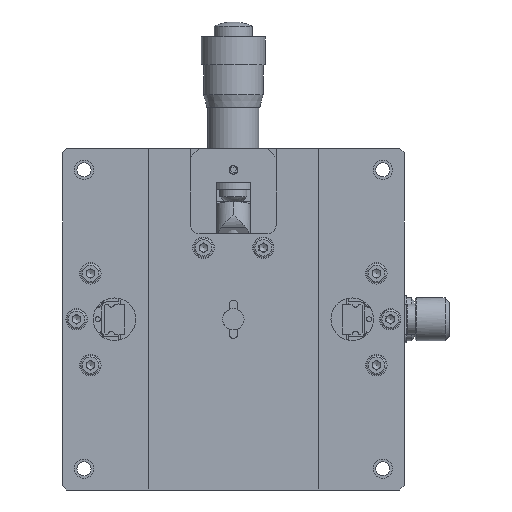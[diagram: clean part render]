
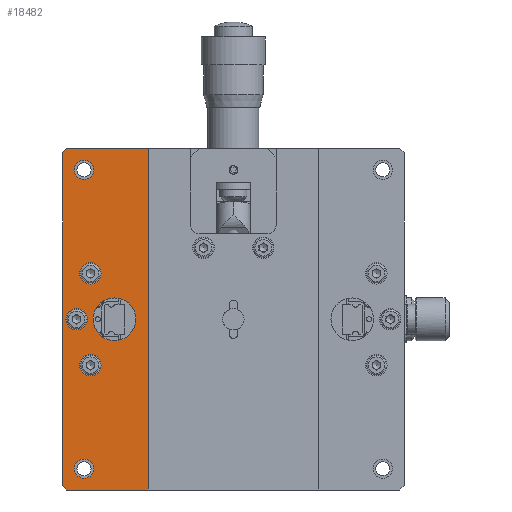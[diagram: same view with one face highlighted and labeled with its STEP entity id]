
A CAD part, front view. The second image highlights one B-rep face of the part: STEP entity #18482.
In plain terms, the highlighted planar face has unit normal (0, -1, 0).
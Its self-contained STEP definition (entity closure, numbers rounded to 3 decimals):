
#174 = VECTOR ( 'NONE', #33230, 1000. ) ;
#205 = VERTEX_POINT ( 'NONE', #29782 ) ;
#845 = CARTESIAN_POINT ( 'NONE',  ( -39., 0., 40. ) ) ;
#1415 = DIRECTION ( 'NONE',  ( -1., 0., 0. ) ) ;
#1428 = FACE_BOUND ( 'NONE', #21242, .T. ) ;
#1752 = CIRCLE ( 'NONE', #14647, 2.5 ) ;
#2154 = ORIENTED_EDGE ( 'NONE', *, *, #39983, .F. ) ;
#2797 = VECTOR ( 'NONE', #19527, 1000. ) ;
#3346 = ORIENTED_EDGE ( 'NONE', *, *, #39686, .T. ) ;
#4066 = CARTESIAN_POINT ( 'NONE',  ( -39., 0., -40. ) ) ;
#4334 = VERTEX_POINT ( 'NONE', #16429 ) ;
#4614 = DIRECTION ( 'NONE',  ( 0., 1., 0. ) ) ;
#5257 = FACE_BOUND ( 'NONE', #29227, .T. ) ;
#5347 = VERTEX_POINT ( 'NONE', #41017 ) ;
#5890 = DIRECTION ( 'NONE',  ( 0., 0., -1. ) ) ;
#6401 = EDGE_LOOP ( 'NONE', ( #19631 ) ) ;
#6529 = VECTOR ( 'NONE', #12095, 1000. ) ;
#6559 = CARTESIAN_POINT ( 'NONE',  ( -39.5, 0., 39.5 ) ) ;
#6614 = VERTEX_POINT ( 'NONE', #23190 ) ;
#7792 = CARTESIAN_POINT ( 'NONE',  ( -35., 0., 35. ) ) ;
#7803 = FACE_BOUND ( 'NONE', #18944, .T. ) ;
#7910 = AXIS2_PLACEMENT_3D ( 'NONE', #22037, #16080, #5890 ) ;
#9544 = CARTESIAN_POINT ( 'NONE',  ( -20., 0., -40. ) ) ;
#10146 = LINE ( 'NONE', #10554, #30213 ) ;
#10554 = CARTESIAN_POINT ( 'NONE',  ( -40., 0., 40. ) ) ;
#12051 = FACE_OUTER_BOUND ( 'NONE', #37742, .T. ) ;
#12095 = DIRECTION ( 'NONE',  ( 0.707, 0., -0.707 ) ) ;
#12119 = CARTESIAN_POINT ( 'NONE',  ( -33.5, 0., 8.25 ) ) ;
#12247 = DIRECTION ( 'NONE',  ( 0., 0., 1. ) ) ;
#13115 = DIRECTION ( 'NONE',  ( 0., 0., 1. ) ) ;
#13596 = DIRECTION ( 'NONE',  ( 0., -1., 0. ) ) ;
#13655 = VERTEX_POINT ( 'NONE', #9544 ) ;
#14647 = AXIS2_PLACEMENT_3D ( 'NONE', #17006, #13596, #32555 ) ;
#15014 = CARTESIAN_POINT ( 'NONE',  ( 0., 0., 0. ) ) ;
#15510 = EDGE_CURVE ( 'NONE', #19477, #4334, #10146, .T. ) ;
#15573 = VECTOR ( 'NONE', #19700, 1000. ) ;
#16080 = DIRECTION ( 'NONE',  ( 0., -1., 0. ) ) ;
#16429 = CARTESIAN_POINT ( 'NONE',  ( -40., 0., 39. ) ) ;
#16474 = VERTEX_POINT ( 'NONE', #4066 ) ;
#16758 = EDGE_LOOP ( 'NONE', ( #23302 ) ) ;
#16799 = VERTEX_POINT ( 'NONE', #845 ) ;
#17006 = CARTESIAN_POINT ( 'NONE',  ( -33.5, 0., -10.75 ) ) ;
#17149 = EDGE_LOOP ( 'NONE', ( #27615 ) ) ;
#18122 = EDGE_CURVE ( 'NONE', #19477, #16474, #38031, .T. ) ;
#18165 = VECTOR ( 'NONE', #1415, 1000. ) ;
#18261 = CARTESIAN_POINT ( 'NONE',  ( -39.5, 0., -39.5 ) ) ;
#18265 = AXIS2_PLACEMENT_3D ( 'NONE', #18529, #18749, #31735 ) ;
#18482 = ADVANCED_FACE ( 'NONE', ( #1428, #5257, #31198, #30983, #12051, #40717, #7803 ), #20776, .T. ) ;
#18529 = CARTESIAN_POINT ( 'NONE',  ( -35., 0., -35. ) ) ;
#18674 = EDGE_CURVE ( 'NONE', #5347, #5347, #20110, .T. ) ;
#18749 = DIRECTION ( 'NONE',  ( 0., 1., 0. ) ) ;
#18752 = AXIS2_PLACEMENT_3D ( 'NONE', #15014, #27991, #21183 ) ;
#18860 = ORIENTED_EDGE ( 'NONE', *, *, #36657, .F. ) ;
#18944 = EDGE_LOOP ( 'NONE', ( #3346 ) ) ;
#19158 = CARTESIAN_POINT ( 'NONE',  ( -40., 0., -39. ) ) ;
#19477 = VERTEX_POINT ( 'NONE', #19158 ) ;
#19527 = DIRECTION ( 'NONE',  ( -0.707, 0., -0.707 ) ) ;
#19631 = ORIENTED_EDGE ( 'NONE', *, *, #18674, .F. ) ;
#19700 = DIRECTION ( 'NONE',  ( 0., 0., -1. ) ) ;
#19767 = VERTEX_POINT ( 'NONE', #39710 ) ;
#20101 = EDGE_CURVE ( 'NONE', #13655, #16474, #33739, .T. ) ;
#20110 = CIRCLE ( 'NONE', #7910, 5. ) ;
#20253 = LINE ( 'NONE', #33646, #174 ) ;
#20383 = CARTESIAN_POINT ( 'NONE',  ( -36.75, 0., 0. ) ) ;
#20775 = EDGE_CURVE ( 'NONE', #205, #205, #33692, .T. ) ;
#20776 = PLANE ( 'NONE',  #18752 ) ;
#21183 = DIRECTION ( 'NONE',  ( 0., 0., -1. ) ) ;
#21242 = EDGE_LOOP ( 'NONE', ( #18860 ) ) ;
#22037 = CARTESIAN_POINT ( 'NONE',  ( -27.85, 0., 0. ) ) ;
#22043 = EDGE_CURVE ( 'NONE', #6614, #6614, #1752, .T. ) ;
#22898 = LINE ( 'NONE', #31678, #15573 ) ;
#23190 = CARTESIAN_POINT ( 'NONE',  ( -33.5, 0., -13.25 ) ) ;
#23302 = ORIENTED_EDGE ( 'NONE', *, *, #22043, .F. ) ;
#23512 = AXIS2_PLACEMENT_3D ( 'NONE', #24899, #27880, #37634 ) ;
#23652 = ORIENTED_EDGE ( 'NONE', *, *, #28039, .F. ) ;
#24609 = ORIENTED_EDGE ( 'NONE', *, *, #20101, .F. ) ;
#24859 = AXIS2_PLACEMENT_3D ( 'NONE', #7792, #4614, #12247 ) ;
#24899 = CARTESIAN_POINT ( 'NONE',  ( -33.5, 0., 10.75 ) ) ;
#25687 = LINE ( 'NONE', #6559, #2797 ) ;
#26936 = AXIS2_PLACEMENT_3D ( 'NONE', #20383, #30597, #33566 ) ;
#27615 = ORIENTED_EDGE ( 'NONE', *, *, #20775, .T. ) ;
#27731 = ORIENTED_EDGE ( 'NONE', *, *, #15510, .F. ) ;
#27880 = DIRECTION ( 'NONE',  ( 0., -1., 0. ) ) ;
#27991 = DIRECTION ( 'NONE',  ( 0., -1., 0. ) ) ;
#28039 = EDGE_CURVE ( 'NONE', #16799, #33103, #20253, .T. ) ;
#28921 = VERTEX_POINT ( 'NONE', #12119 ) ;
#29227 = EDGE_LOOP ( 'NONE', ( #36832 ) ) ;
#29782 = CARTESIAN_POINT ( 'NONE',  ( -35., 0., 37.25 ) ) ;
#30017 = CARTESIAN_POINT ( 'NONE',  ( -36.75, 0., -2.5 ) ) ;
#30213 = VECTOR ( 'NONE', #13115, 1000. ) ;
#30281 = CIRCLE ( 'NONE', #23512, 2.5 ) ;
#30525 = CIRCLE ( 'NONE', #18265, 2.25 ) ;
#30561 = CARTESIAN_POINT ( 'NONE',  ( -40., 0., -40. ) ) ;
#30597 = DIRECTION ( 'NONE',  ( 0., -1., 0. ) ) ;
#30983 = FACE_BOUND ( 'NONE', #6401, .T. ) ;
#31198 = FACE_BOUND ( 'NONE', #16758, .T. ) ;
#31668 = EDGE_CURVE ( 'NONE', #33000, #33000, #37774, .T. ) ;
#31678 = CARTESIAN_POINT ( 'NONE',  ( -20., 0., 40. ) ) ;
#31735 = DIRECTION ( 'NONE',  ( 0., 0., 1. ) ) ;
#32555 = DIRECTION ( 'NONE',  ( 0., 0., -1. ) ) ;
#33000 = VERTEX_POINT ( 'NONE', #30017 ) ;
#33103 = VERTEX_POINT ( 'NONE', #37726 ) ;
#33230 = DIRECTION ( 'NONE',  ( 1., 0., 0. ) ) ;
#33566 = DIRECTION ( 'NONE',  ( 0., 0., -1. ) ) ;
#33646 = CARTESIAN_POINT ( 'NONE',  ( -40., 0., 40. ) ) ;
#33692 = CIRCLE ( 'NONE', #24859, 2.25 ) ;
#33739 = LINE ( 'NONE', #30561, #18165 ) ;
#36182 = ORIENTED_EDGE ( 'NONE', *, *, #41592, .T. ) ;
#36657 = EDGE_CURVE ( 'NONE', #28921, #28921, #30281, .T. ) ;
#36832 = ORIENTED_EDGE ( 'NONE', *, *, #31668, .F. ) ;
#37634 = DIRECTION ( 'NONE',  ( 0., 0., -1. ) ) ;
#37726 = CARTESIAN_POINT ( 'NONE',  ( -20., 0., 40. ) ) ;
#37742 = EDGE_LOOP ( 'NONE', ( #27731, #37848, #24609, #2154, #23652, #36182 ) ) ;
#37774 = CIRCLE ( 'NONE', #26936, 2.5 ) ;
#37848 = ORIENTED_EDGE ( 'NONE', *, *, #18122, .T. ) ;
#38031 = LINE ( 'NONE', #18261, #6529 ) ;
#39686 = EDGE_CURVE ( 'NONE', #19767, #19767, #30525, .T. ) ;
#39710 = CARTESIAN_POINT ( 'NONE',  ( -35., 0., -32.75 ) ) ;
#39983 = EDGE_CURVE ( 'NONE', #33103, #13655, #22898, .T. ) ;
#40717 = FACE_BOUND ( 'NONE', #17149, .T. ) ;
#41017 = CARTESIAN_POINT ( 'NONE',  ( -27.85, 0., -5. ) ) ;
#41592 = EDGE_CURVE ( 'NONE', #16799, #4334, #25687, .T. ) ;
